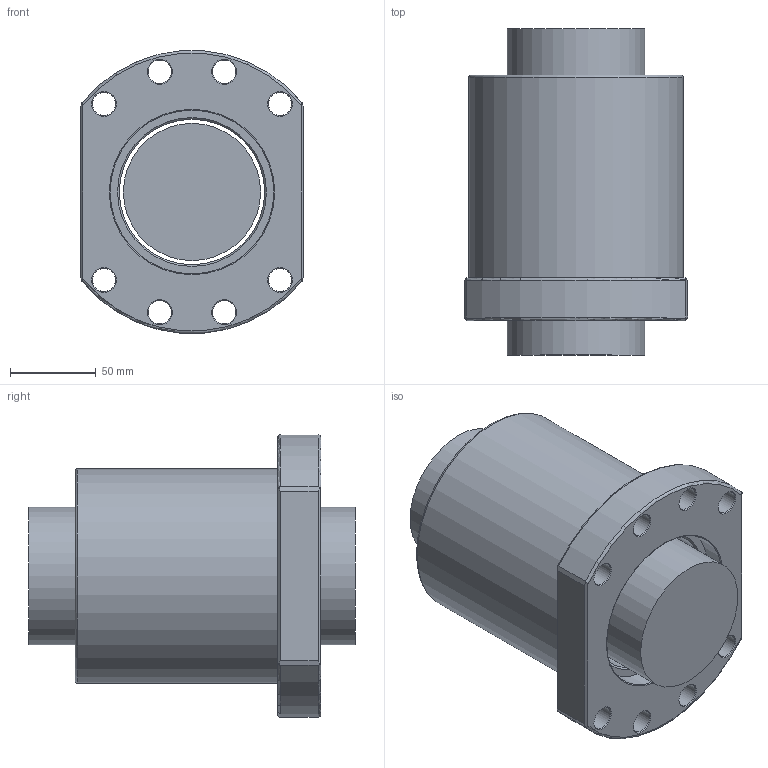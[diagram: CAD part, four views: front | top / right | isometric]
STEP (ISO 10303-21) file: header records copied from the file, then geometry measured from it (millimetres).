
FILE_DESCRIPTION(/* description */ (''),/* implementation_level */ '2;1');
FILE_NAME(/* name */ '8020.prt.step',/* time_stamp */ '2008-12-05T16:32:50+08:00',/* author */ (''),/* organization */ (''),/* preprocessor_version */ 'ST-DEVELOPER v11',/* originating_system */ 'SIEMENS UGS NX 6.0',/* authorisation */ '');
FILE_SCHEMA (('AUTOMOTIVE_DESIGN { 1 0 10303 214 1 1 1 1 }'));
Length unit declared in the file: millimetre
Products named in the file (1): 8020
Bounding box: 130 x 190 x 164.46 mm (x, y, z)
Volume: 2003216.6 mm3; surface area: 186724.4 mm2
Topology: 2 solids, 2 shells, 57 faces, 132 edges, 82 vertices
Faces by surface type: cone 18, plane 17, cylinder 15, torus 7
Full cylindrical faces by diameter (mm): 13.5 x8, 79.95 x1, 84.7 x1, 95.3 x2, 125 x1
Entity records: 1694 total; most frequent: CARTESIAN_POINT 472, DIRECTION 250, ORIENTED_EDGE 190, AXIS2_PLACEMENT_3D 113, EDGE_LOOP 112, EDGE_CURVE 95, FACE_BOUND 94, VERTEX_POINT 79
